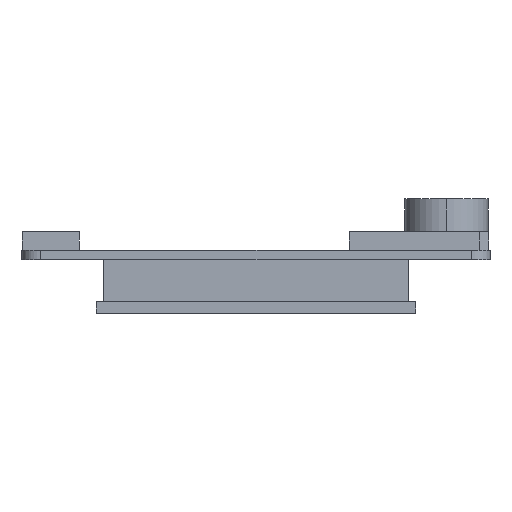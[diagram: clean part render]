
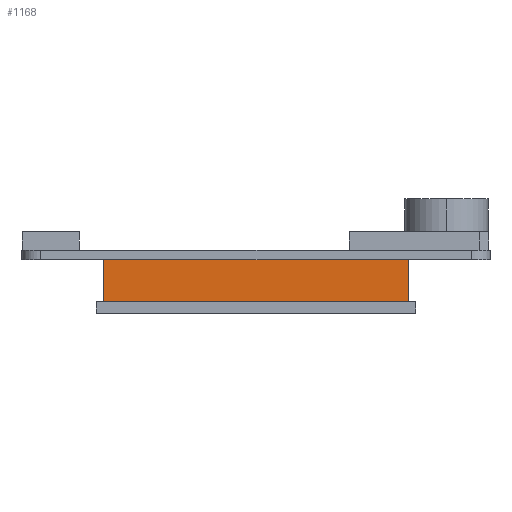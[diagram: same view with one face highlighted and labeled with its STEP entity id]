
A CAD part, left-side view. The second image highlights one B-rep face of the part: STEP entity #1168.
In plain terms, the highlighted planar face has unit normal (-1, 0, 0).
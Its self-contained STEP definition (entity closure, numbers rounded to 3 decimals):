
#259=DIRECTION('',(0.,1.,0.));
#260=VECTOR('',#259,32.52);
#261=CARTESIAN_POINT('',(-15.79,-16.26,-1.));
#262=LINE('',#261,#260);
#339=DIRECTION('',(0.,0.,-1.));
#340=VECTOR('',#339,4.5);
#341=CARTESIAN_POINT('',(-15.79,16.26,-1.));
#342=LINE('',#341,#340);
#363=DIRECTION('',(0.,1.,0.));
#364=VECTOR('',#363,32.52);
#365=CARTESIAN_POINT('',(-15.79,-16.26,-5.5));
#366=LINE('',#365,#364);
#367=DIRECTION('',(0.,0.,-1.));
#368=VECTOR('',#367,4.5);
#369=CARTESIAN_POINT('',(-15.79,-16.26,-1.));
#370=LINE('',#369,#368);
#657=CARTESIAN_POINT('',(-15.79,16.26,-1.));
#659=VERTEX_POINT('',#657);
#663=CARTESIAN_POINT('',(-15.79,-16.26,-1.));
#664=VERTEX_POINT('',#663);
#685=CARTESIAN_POINT('',(-15.79,16.26,-5.5));
#686=VERTEX_POINT('',#685);
#687=CARTESIAN_POINT('',(-15.79,-16.26,-5.5));
#688=VERTEX_POINT('',#687);
#1156=CARTESIAN_POINT('',(-15.79,-16.26,-1.));
#1157=DIRECTION('',(-1.,0.,0.));
#1158=DIRECTION('',(0.,1.,0.));
#1159=AXIS2_PLACEMENT_3D('',#1156,#1157,#1158);
#1160=PLANE('',#1159);
#1161=ORIENTED_EDGE('',*,*,#1139,.T.);
#1162=ORIENTED_EDGE('',*,*,#1128,.F.);
#1163=ORIENTED_EDGE('',*,*,#877,.F.);
#1165=ORIENTED_EDGE('',*,*,#1164,.T.);
#1166=EDGE_LOOP('',(#1161,#1162,#1163,#1165));
#1167=FACE_OUTER_BOUND('',#1166,.F.);
#877=EDGE_CURVE('',#664,#659,#262,.T.);
#1128=EDGE_CURVE('',#659,#686,#342,.T.);
#1139=EDGE_CURVE('',#688,#686,#366,.T.);
#1164=EDGE_CURVE('',#664,#688,#370,.T.);
#1168=ADVANCED_FACE('',(#1167),#1160,.T.);
